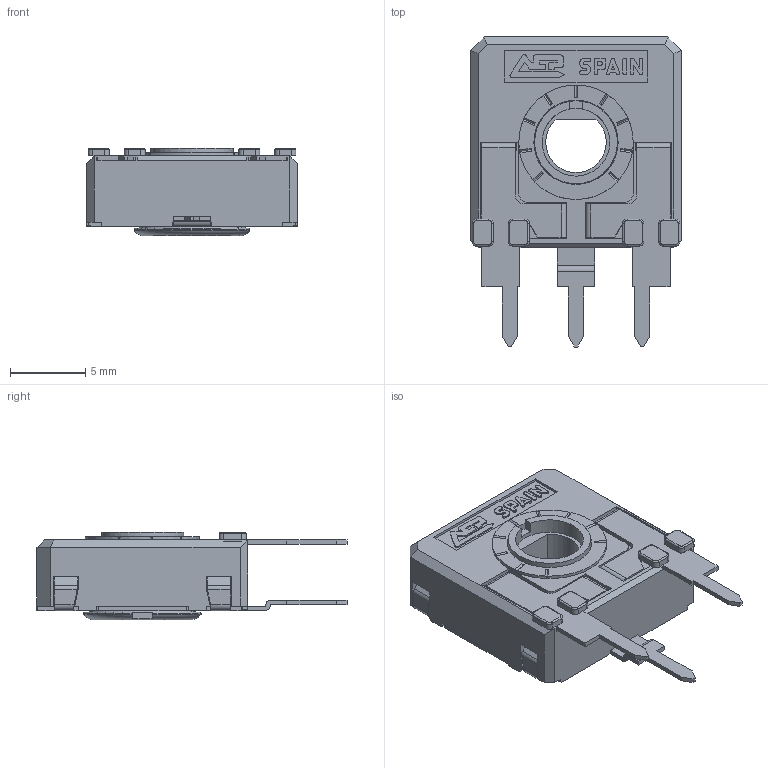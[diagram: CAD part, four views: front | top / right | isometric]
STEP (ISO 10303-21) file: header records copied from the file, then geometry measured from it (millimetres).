
FILE_DESCRIPTION(/* description */ (''),/* implementation_level */ '2;1');
FILE_NAME(/* name */ '\\SERVERACP\intercambio\Ignacio Santa Cecilia\Nueva WEB 2025\CA14 - CE14\CA14FH4 RT-RO.stp',/* time_stamp */ '2025-06-12T09:50:36+02:00',/* author */ ('CEM'),/* organization */ (''),/* preprocessor_version */ 'ST-DEVELOPER v17',/* originating_system */ 'Autodesk Inventor 2018',/* authorisation */ '');
FILE_SCHEMA (('AUTOMOTIVE_DESIGN { 1 0 10303 214 3 1 1 }'));
Length unit declared in the file: millimetre
Products named in the file (1): CARCASA CA14 PGA
Bounding box: 14 x 20.6 x 5.8 mm (x, y, z)
Volume: 528.1 mm3; surface area: 1445.4 mm2
Topology: 1 solids, 1 shells, 663 faces, 1871 edges, 1204 vertices
Faces by surface type: plane 492, cylinder 134, torus 23, bspline 8, cone 6
Full cylindrical faces by diameter (mm): 4.5 x1, 5.5 x1, 5.6 x1, 5.752 x1, 6.8 x1, 7.6 x1
Entity records: 21634 total; most frequent: CARTESIAN_POINT 4036, ORIENTED_EDGE 3742, DIRECTION 3491, EDGE_CURVE 1871, LINE 1473, VECTOR 1473, VERTEX_POINT 1204, AXIS2_PLACEMENT_3D 1009
